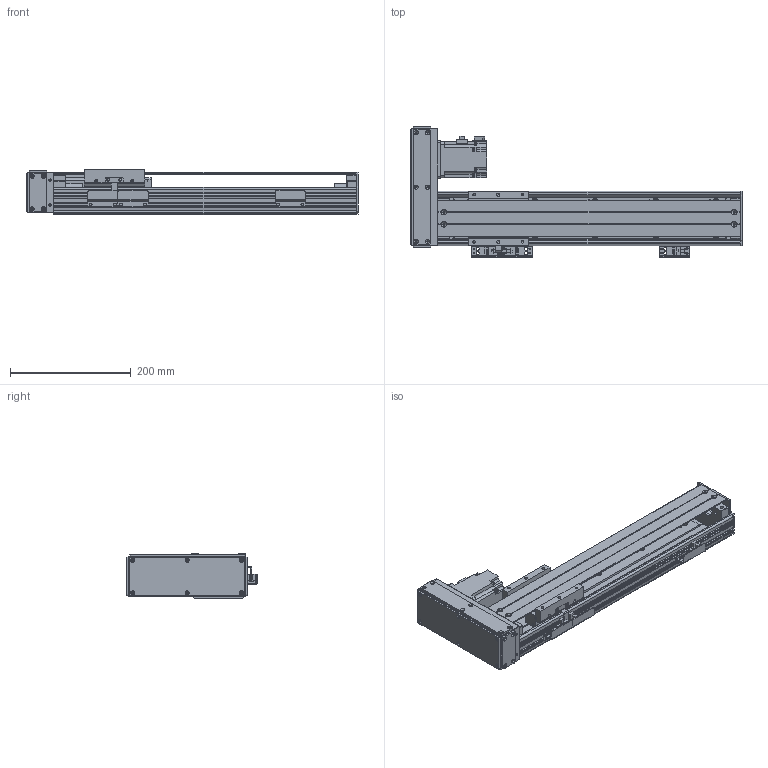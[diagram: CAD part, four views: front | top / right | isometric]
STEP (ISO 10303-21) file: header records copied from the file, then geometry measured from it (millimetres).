
FILE_DESCRIPTION(/* description */ (''),/* implementation_level */ '2;1');
FILE_NAME(/* name */ '\\192.168.0.160\disk1\HAN SHIN Master\B-설계부문\C-표준\B-2024년\BC02-표준도면\+로봇 개선표준도면\홈페이지 표준 도면\홈페이지 최종 작업 폴더\3D\HR\HR90\HG90병렬\좌병렬\HR90-L20-N1B-0300-R10.stp',/* time_stamp */ '2025-01-20T12:55:54+09:00',/* author */ ('user'),/* organization */ (''),/* preprocessor_version */ 'ST-DEVELOPER v18.1',/* originating_system */ 'Autodesk Inventor 2022',/* authorisation */ '');
FILE_SCHEMA (('CONFIG_CONTROL_DESIGN'));
Length unit declared in the file: millimetre
Products named in the file (22): HG90-L20-N1B-0500-R10; HR90 BASE 100W 1BLOCK; HR90 FRONT BLOCK; HR90 REAR BLOCK TENSION; HR90 REAR COVER-TENSION; HG4UPCOV002; HR120 SENSOR DOG; HG90STOPPER - 27L; HG90STOPPER - 20L; HC90-LR-MOTOR PLATE(200W)-사출; MOTOR PLATE-200W(MITSUBISHI); hg-kr23_; 화살표; HR65-LR-BELT COVER; HC90-BELT COVER-COVER3; M-5HL-4; HR90 TABLE; LMKE1520 NUT; SENSOR BRK(EE-SX674A); EE_SX674A; HR75-D-BELT COVER-COVER; HC90-BELT COVER-COVER2
Assembly tree (27 placements, depth 2):
  HG90-L20-N1B-0500-R10
    HR90 BASE 100W 1BLOCK
    HR90 FRONT BLOCK
    HR90 REAR BLOCK TENSION
    HR90 REAR COVER-TENSION
    HG4UPCOV002
    EE_SX674A  x3
    SENSOR BRK(EE-SX674A)  x3
    HR120 SENSOR DOG
    HG90STOPPER - 27L
    HG90STOPPER - 20L
    HC90-LR-MOTOR PLATE(200W)-사출
    MOTOR PLATE-200W(MITSUBISHI)
    hg-kr23_
    화살표  x2
    HC90-BELT COVER-COVER3  x2
    HR65-LR-BELT COVER
    M-5HL-4
    HR90 TABLE
    LMKE1520 NUT
    HR75-D-BELT COVER-COVER
    HC90-BELT COVER-COVER2
Bounding box: 549 x 215 x 75 mm (x, y, z)
Volume: 1452276 mm3; surface area: 582749.7 mm2
Topology: 27 solids, 27 shells, 1374 faces, 3613 edges, 2365 vertices
Faces by surface type: plane 679, cylinder 583, cone 104, sphere 8
Full cylindrical faces by diameter (mm): 1.8 x1, 2 x4, 2.459 x38, 2.5 x2, 3 x8, 3.242 x25, 3.4 x20, 3.5 x6, 4 x4, 4.134 x40, 4.5 x16, 4.917 x5, 5 x29, 5.5 x28, 5.6 x8, 5.8 x4, 5.9 x8, 6 x4, 6.5 x1, 7 x1, 8 x1, 9.5 x24, 14 x1, 15 x3, 17 x1, 20 x1, 22 x1, 25 x1, 28 x1, 32 x2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
Entity records: 38595 total; most frequent: CARTESIAN_POINT 7101, DIRECTION 6572, ORIENTED_EDGE 6112, EDGE_CURVE 3056, AXIS2_PLACEMENT_3D 2362, VERTEX_POINT 2033, LINE 1848, VECTOR 1848
